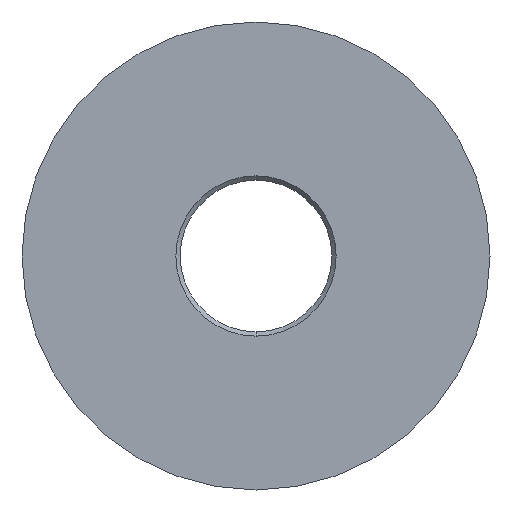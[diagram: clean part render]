
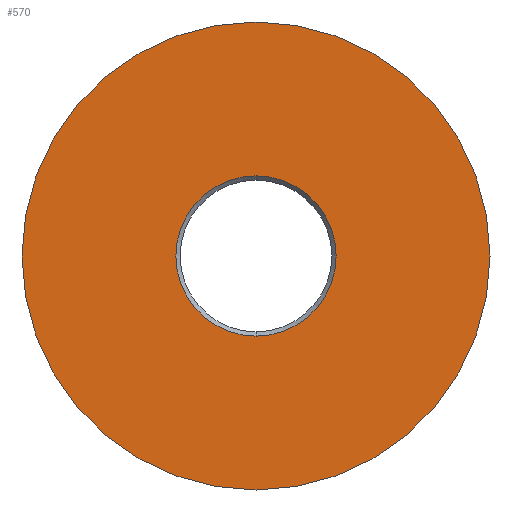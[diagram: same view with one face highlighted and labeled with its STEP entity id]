
A CAD part, front view. The second image highlights one B-rep face of the part: STEP entity #570.
In plain terms, the highlighted planar face has unit normal (0, -1, 0).
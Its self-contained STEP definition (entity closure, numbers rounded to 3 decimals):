
#3 = AXIS2_PLACEMENT_3D ( 'NONE', #407, #525, #142 ) ;
#10 = EDGE_CURVE ( 'NONE', #180, #327, #47, .T. ) ;
#20 = ORIENTED_EDGE ( 'NONE', *, *, #508, .T. ) ;
#22 = CARTESIAN_POINT ( 'NONE',  ( 0., 0., -9.25 ) ) ;
#26 = ORIENTED_EDGE ( 'NONE', *, *, #10, .T. ) ;
#37 = AXIS2_PLACEMENT_3D ( 'NONE', #391, #349, #71 ) ;
#47 = CIRCLE ( 'NONE', #3, 27.01 ) ;
#67 = PLANE ( 'NONE',  #37 ) ;
#71 = DIRECTION ( 'NONE',  ( 0., 0., -1. ) ) ;
#74 = DIRECTION ( 'NONE',  ( 0., 1., 0. ) ) ;
#142 = DIRECTION ( 'NONE',  ( 0., 0., -1. ) ) ;
#165 = VERTEX_POINT ( 'NONE', #22 ) ;
#171 = CARTESIAN_POINT ( 'NONE',  ( 0., 0., 0. ) ) ;
#180 = VERTEX_POINT ( 'NONE', #361 ) ;
#186 = AXIS2_PLACEMENT_3D ( 'NONE', #360, #363, #539 ) ;
#212 = AXIS2_PLACEMENT_3D ( 'NONE', #338, #540, #536 ) ;
#224 = AXIS2_PLACEMENT_3D ( 'NONE', #171, #74, #301 ) ;
#283 = VERTEX_POINT ( 'NONE', #359 ) ;
#301 = DIRECTION ( 'NONE',  ( 0., 0., -1. ) ) ;
#314 = EDGE_CURVE ( 'NONE', #283, #165, #459, .T. ) ;
#315 = CIRCLE ( 'NONE', #186, 27.01 ) ;
#327 = VERTEX_POINT ( 'NONE', #380 ) ;
#338 = CARTESIAN_POINT ( 'NONE',  ( 0., 0., 0. ) ) ;
#349 = DIRECTION ( 'NONE',  ( 0., -1., 0. ) ) ;
#352 = FACE_OUTER_BOUND ( 'NONE', #490, .T. ) ;
#359 = CARTESIAN_POINT ( 'NONE',  ( 0., 0., 9.25 ) ) ;
#360 = CARTESIAN_POINT ( 'NONE',  ( 0., 0., 0. ) ) ;
#361 = CARTESIAN_POINT ( 'NONE',  ( 0., 0., 27.01 ) ) ;
#363 = DIRECTION ( 'NONE',  ( 0., -1., 0. ) ) ;
#380 = CARTESIAN_POINT ( 'NONE',  ( 0., 0., -27.01 ) ) ;
#391 = CARTESIAN_POINT ( 'NONE',  ( 27.01, 0., 0. ) ) ;
#407 = CARTESIAN_POINT ( 'NONE',  ( 0., 0., 0. ) ) ;
#428 = EDGE_LOOP ( 'NONE', ( #518, #441 ) ) ;
#441 = ORIENTED_EDGE ( 'NONE', *, *, #314, .T. ) ;
#459 = CIRCLE ( 'NONE', #212, 9.25 ) ;
#488 = CIRCLE ( 'NONE', #224, 9.25 ) ;
#490 = EDGE_LOOP ( 'NONE', ( #20, #26 ) ) ;
#508 = EDGE_CURVE ( 'NONE', #327, #180, #315, .T. ) ;
#518 = ORIENTED_EDGE ( 'NONE', *, *, #541, .T. ) ;
#525 = DIRECTION ( 'NONE',  ( 0., -1., 0. ) ) ;
#536 = DIRECTION ( 'NONE',  ( 0., 0., -1. ) ) ;
#539 = DIRECTION ( 'NONE',  ( 0., 0., -1. ) ) ;
#540 = DIRECTION ( 'NONE',  ( 0., 1., 0. ) ) ;
#541 = EDGE_CURVE ( 'NONE', #165, #283, #488, .T. ) ;
#543 = FACE_BOUND ( 'NONE', #428, .T. ) ;
#570 = ADVANCED_FACE ( 'NONE', ( #543, #352 ), #67, .T. ) ;
